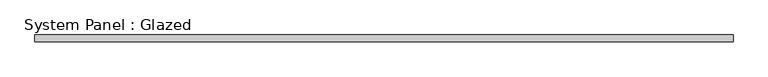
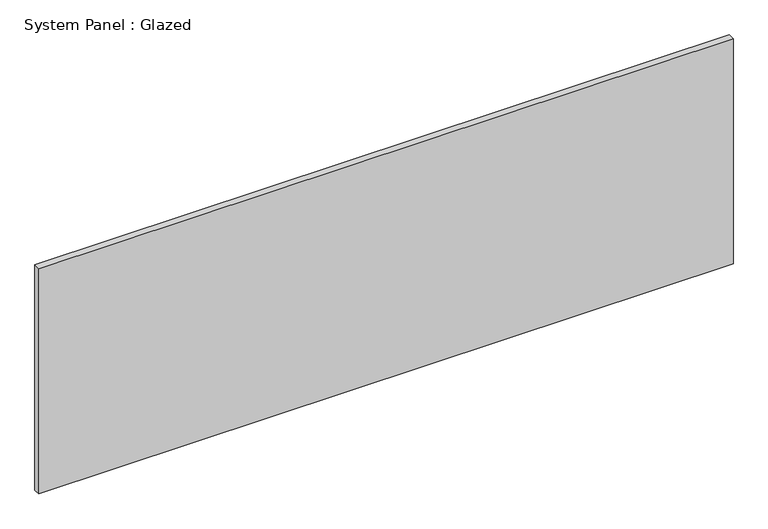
"""IFC4 building model written with IfcOpenShell, lengths in millimetres: plate geometry, System Panel : Glazed."""

from ifc_helpers import new_model, si_unit, origin, origin_with_axes, place, context, project, spatial, polyline, outline, extrude, source, transform, mapped, element, save


def system_panel_glazed_db5c68c4(model_context):
    return source(origin(), model_context, "Body", "SweptSolid", [
        extrude(outline(polyline([(1312.5, 24.5), (-1312.5, 24.5), (-1312.5, 49.5), (1312.5, 49.5), (1312.5, 24.5)])), origin_with_axes(), (0.0, 0.0, 1.0), 900.0),
    ])


if __name__ == "__main__":
    model = new_model("IFC4")
    model_context = context("Model", 3, world=origin())
    ifc_project = project(units=[si_unit("LENGTHUNIT", "METRE", prefix="MILLI")], contexts=[model_context])
    site = spatial("IfcSite", under=ifc_project)
    building = spatial("IfcBuilding", under=site)
    placement = place(None, origin())
    system_panel_glazed_shape = system_panel_glazed_db5c68c4(model_context)
    element("IfcPlate", 1, ObjectType="System Panel : Glazed", at=placement, inside=building, context=model_context, shape_type="MappedRepresentation", body=[
        mapped(system_panel_glazed_shape, transform((0.0, 0.0, 0.0), x_axis=(1.0, 0.0, 0.0), y_axis=(0.0, 1.0, 0.0), z_axis=(0.0, 0.0, 1.0))),
    ])
    save(model, "model.ifc")
